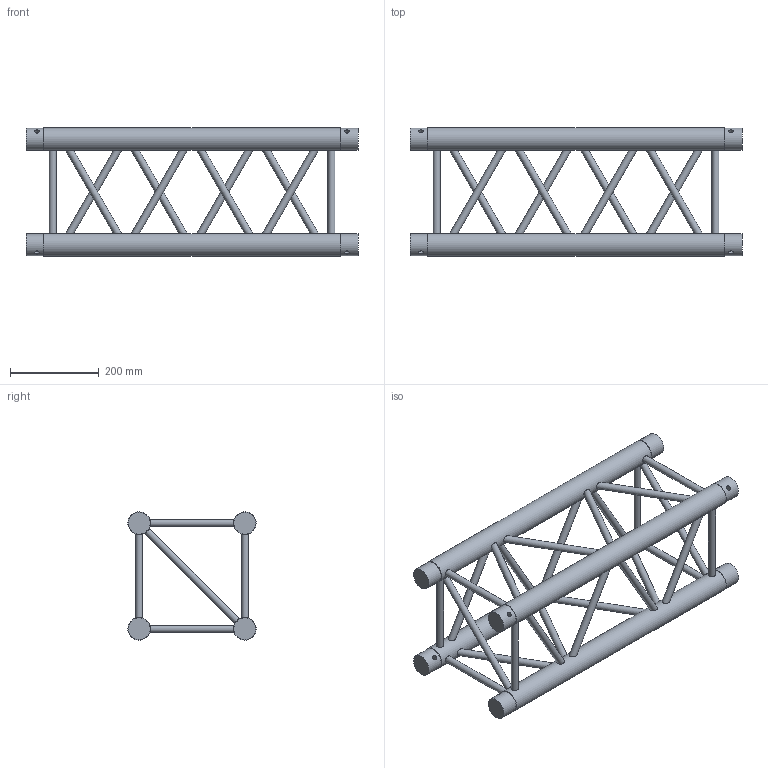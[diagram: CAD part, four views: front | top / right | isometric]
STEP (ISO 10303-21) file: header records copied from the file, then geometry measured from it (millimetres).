
FILE_DESCRIPTION(/* description */ (''),/* implementation_level */ '2;1');
FILE_NAME(/* name */ 'M:\Symbolen\STP\30-er truss\111080124.stp',/* time_stamp */ '2015-01-29T16:12:37+01:00',/* author */ ('Stephan'),/* organization */ (''),/* preprocessor_version */ 'ST-DEVELOPER v15.6',/* originating_system */ 'Autodesk Inventor 2015',/* authorisation */ '');
FILE_SCHEMA (('AUTOMOTIVE_DESIGN { 1 0 10303 214 3 1 1 }'));
Length unit declared in the file: millimetre
Products named in the file (1): 160023700
Bounding box: 750 x 289.98 x 289.98 mm (x, y, z)
Volume: 7110713.4 mm3; surface area: 821007.5 mm2
Topology: 30 solids, 30 shells, 184 faces, 328 edges, 200 vertices
Faces by surface type: plane 120, cylinder 56, cone 8
Full cylindrical faces by diameter (mm): 10 x8, 12 x2, 16 x26, 49.5 x8, 51 x4
Entity records: 5093 total; most frequent: CARTESIAN_POINT 1265, DIRECTION 706, ORIENTED_EDGE 608, AXIS2_PLACEMENT_3D 321, EDGE_LOOP 312, EDGE_CURVE 256, VERTEX_POINT 192, STYLED_ITEM 177
